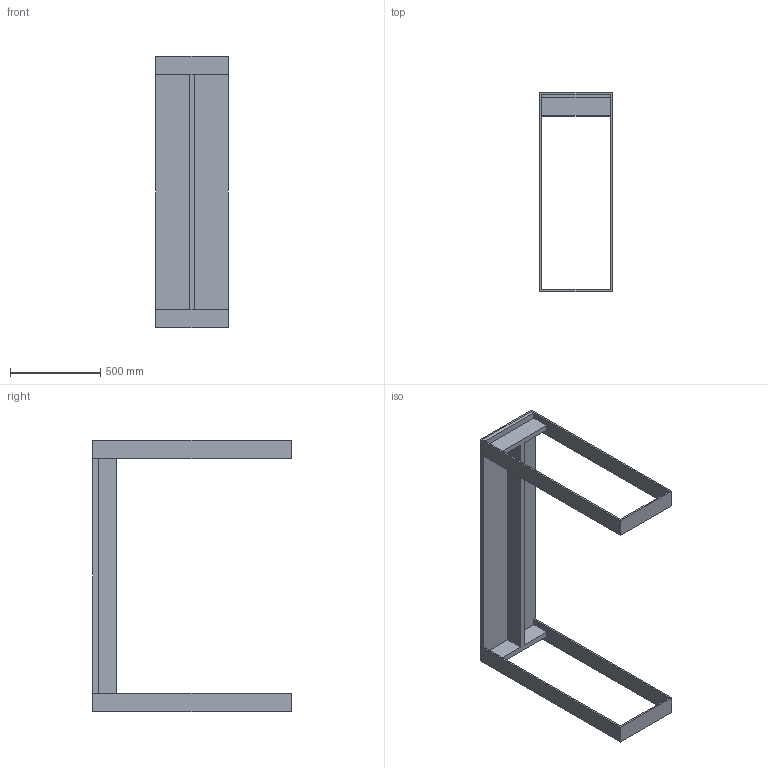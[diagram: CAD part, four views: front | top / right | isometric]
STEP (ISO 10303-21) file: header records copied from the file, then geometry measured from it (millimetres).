
FILE_DESCRIPTION (( 'STEP AP203' ), '1' );
FILE_NAME ('Haag 1500x400x1100.STEP', '2019-04-02T18:02:31', ( '' ), ( '' ), 'SwSTEP 2.0', 'SolidWorks 2019', '' );
FILE_SCHEMA (( 'CONFIG_CONTROL_DESIGN' ));
Length unit declared in the file: millimetre
Products named in the file (1): Haag 1500x400x1100
Bounding box: 400 x 1100 x 1500 mm (x, y, z)
Volume: 29430000 mm3; surface area: 3164200 mm2
Topology: 4 solids, 4 shells, 48 faces, 120 edges, 80 vertices
Faces by surface type: plane 48
Entity records: 1483 total; most frequent: CARTESIAN_POINT 249, ORIENTED_EDGE 240, DIRECTION 218, EDGE_CURVE 120, VECTOR 120, LINE 120, VERTEX_POINT 80, EDGE_LOOP 52
